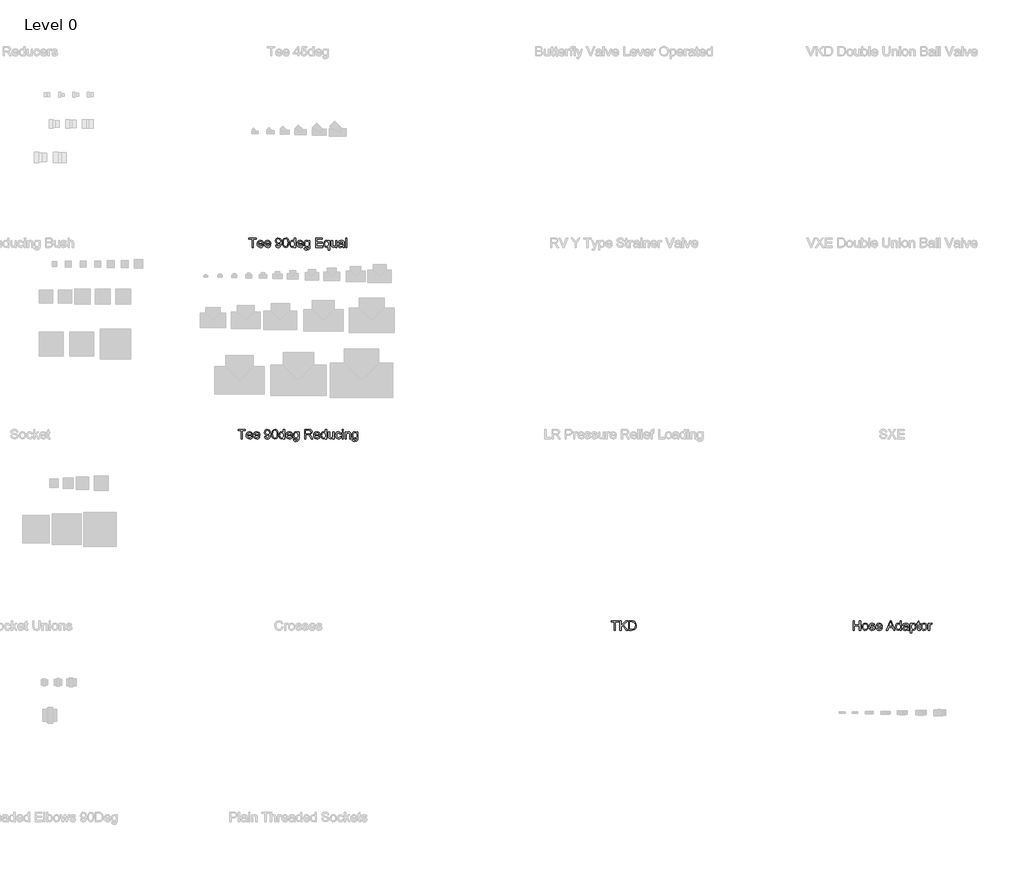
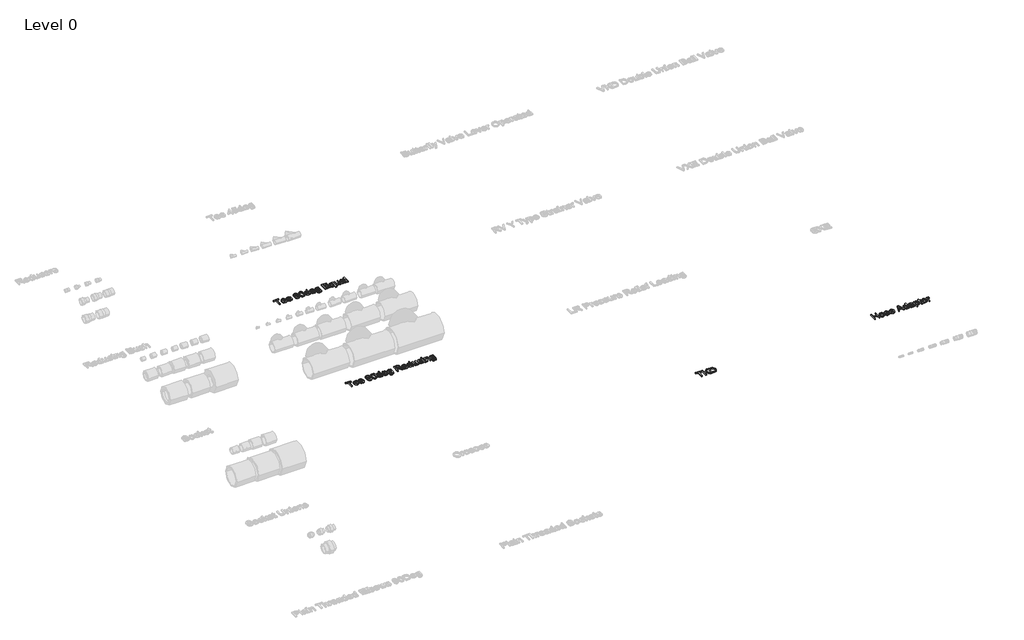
# One storey, part 8 of 12: 4 proxies.
"""IFC4 building model written with IfcOpenShell, lengths in millimetres."""

from ifc_helpers import new_model, si_unit, origin, origin_with_axes, place, context, project, spatial, polyline, outline, extrude, element, save

model = new_model("IFC4")

# Units and contexts
model_context = context("Model", 3, world=origin())
ifc_project = project(units=[si_unit("LENGTHUNIT", "METRE", prefix="MILLI")], contexts=[model_context])

# Site, building, storey
site = spatial("IfcSite", under=ifc_project)
building = spatial("IfcBuilding", under=site)
storey = spatial("IfcBuildingStorey", under=building, Name="Level 0", Elevation=0.0)

# Proxies
placement = place(None, origin())
element("IfcBuildingElementProxy", 1, Name="150mm Arial", ObjectType="150mm Arial", at=placement, inside=storey, context=model_context, shape_type="SweptSolid", body=[
    extrude(outline(polyline([(-11119.5054073, 6945.7253457), (-11119.5054073, 7031.8791919), (-11151.8130996, 7031.8791919), (-11151.8130996, 7044.1868842), (-11074.8900227, 7044.1868842), (-11074.8900227, 7031.8791919), (-11107.197715, 7031.8791919), (-11107.197715, 6945.7253457), (-11119.5054073, 6945.7253457)])), origin_with_axes(), (0.0, 0.0, 1.0), 15.0),
    extrude(outline(polyline([(-11011.9573304, 6967.2638073), (-10999.8900227, 6965.7253457), (-11004.2379794, 6956.6327977), (-11011.1760804, 6949.8359227), (-11020.5480756, 6945.5991438), (-11032.197715, 6944.1868842), (-11046.6388208, 6946.6237832), (-11057.7505996, 6953.9344804), (-11064.8359362, 6965.6442159), (-11067.197715, 6981.2782304), (-11064.8118977, 6997.4380861), (-11057.6544458, 7009.5234227), (-11046.6929073, 7017.0594804), (-11032.8948304, 7019.5714996), (-11019.526441, 7017.06549), (-11008.8443496, 7009.5474611), (-11001.8401429, 6997.486163), (-10999.5054073, 6981.3503457), (-10999.5775227, 6978.033038), (-11054.8900227, 6978.033038), (-11052.7596141, 6968.8202977), (-11047.8106958, 6962.0474611), (-11031.9573304, 6956.4945765), (-11019.8900227, 6959.0666919), (-11011.9573304, 6967.2638073)]), holes=[polyline([(-11054.8900227, 6990.3407304), (-11011.8130996, 6990.3407304), (-11016.7409843, 7001.4945765), (-11023.916465, 7005.8214996), (-11032.9429073, 7007.2638073), (-11048.0991573, 7002.6604419), (-11054.8900227, 6990.3407304)])]), origin_with_axes(), (0.0, 0.0, 1.0), 15.0),
    extrude(outline(polyline([(-10936.572715, 6967.2638073), (-10924.5054073, 6965.7253457), (-10928.8533641, 6956.6327977), (-10935.791465, 6949.8359227), (-10945.1634602, 6945.5991438), (-10956.8130996, 6944.1868842), (-10971.2542054, 6946.6237832), (-10982.3659843, 6953.9344804), (-10989.4513208, 6965.6442159), (-10991.8130996, 6981.2782304), (-10989.4272823, 6997.4380861), (-10982.2698304, 7009.5234227), (-10971.3082919, 7017.0594804), (-10957.510215, 7019.5714996), (-10944.1418256, 7017.06549), (-10933.4597343, 7009.5474611), (-10926.4555275, 6997.486163), (-10924.1207919, 6981.3503457), (-10924.1929073, 6978.033038), (-10979.5054073, 6978.033038), (-10977.3749987, 6968.8202977), (-10972.4260804, 6962.0474611), (-10956.572715, 6956.4945765), (-10944.5054073, 6959.0666919), (-10936.572715, 6967.2638073)]), holes=[polyline([(-10979.5054073, 6990.3407304), (-10936.4284843, 6990.3407304), (-10941.3563689, 7001.4945765), (-10948.5318496, 7005.8214996), (-10957.5582919, 7007.2638073), (-10972.7145419, 7002.6604419), (-10979.5054073, 6990.3407304)])]), origin_with_axes(), (0.0, 0.0, 1.0), 15.0),
    extrude(outline(polyline([(-10874.8900227, 6970.3407304), (-10862.5823304, 6971.8791919), (-10857.0534843, 6960.1364034), (-10846.572715, 6956.4945765), (-10836.6087727, 6958.8383265), (-10829.853965, 6965.1003457), (-10825.8275227, 6975.7974611), (-10824.0486766, 6990.0763073), (-10824.1207919, 6992.4801534), (-10833.9645419, 6983.1532304), (-10847.4621381, 6979.5714996), (-10858.6850948, 6981.7589996), (-10868.0270419, 6988.3214996), (-10874.3281237, 6998.4597207), (-10876.4284843, 7011.3743842), (-10874.2259602, 7024.7157304), (-10867.6183881, 7035.1724611), (-10857.6935083, 7041.9332784), (-10845.5390612, 7044.1868842), (-10828.0030035, 7039.0426534), (-10815.9356958, 7024.3791919), (-10811.8130996, 6996.831115), (-10815.9236766, 6966.939288), (-10828.1472343, 6950.0041919), (-10836.9543256, 6945.6412111), (-10847.1496381, 6944.1868842), (-10857.6724746, 6945.9026294), (-10866.0679073, 6951.049865), (-10871.9393016, 6959.3040717), (-10874.8900227, 6970.3407304)]), holes=[polyline([(-10824.1207919, 7011.6628457), (-10829.4332919, 7026.4224611), (-10843.5438689, 7031.8791919), (-10851.7650227, 7030.4098409), (-10858.3515612, 7026.001788), (-10862.6784843, 7019.2559948), (-10864.1207919, 7010.7734227), (-10858.6640612, 6997.1315957), (-10843.8804073, 6991.8791919), (-10829.6856958, 6997.1315957), (-10825.5120179, 7003.3906102), (-10824.1207919, 7011.6628457)])]), origin_with_axes(), (0.0, 0.0, 1.0), 15.0),
    extrude(outline(polyline([(-10801.0438689, 6994.1628457), (-10797.4260804, 7022.4921727), (-10786.6808881, 7038.8263073), (-10768.7361766, 7044.1868842), (-10754.3611766, 7041.0138073), (-10744.4332919, 7031.8671727), (-10738.6640612, 7017.299865), (-10736.4284843, 6994.1628457), (-10740.010215, 6965.9537111), (-10750.7193496, 6949.5835188), (-10768.7361766, 6944.1868842), (-10781.5246381, 6946.5306342), (-10791.2361766, 6953.5618842), (-10798.5919458, 6970.2145284), (-10801.0438689, 6994.1628457)]), holes=[polyline([(-10788.7361766, 6994.1868842), (-10787.2938689, 6974.8269082), (-10782.9669458, 6963.6219804), (-10776.5246381, 6958.2764275), (-10768.7361766, 6956.4945765), (-10760.947715, 6958.2824371), (-10754.5054073, 6963.6460188), (-10750.1784843, 6974.8569563), (-10748.7361766, 6994.1868842), (-10750.1304073, 7013.111163), (-10754.3130996, 7024.4032304), (-10760.7433881, 7030.0102015), (-10768.8804073, 7031.8791919), (-10776.5847343, 7030.2325573), (-10782.7746381, 7025.2926534), (-10787.2457919, 7013.2974611), (-10788.7361766, 6994.1868842)])]), origin_with_axes(), (0.0, 0.0, 1.0), 15.0),
    extrude(outline(polyline([(-10677.9669458, 6945.7253457), (-10677.9669458, 6957.3359227), (-10686.1099746, 6947.4741438), (-10697.3659843, 6944.1868842), (-10712.6063689, 6948.9464996), (-10723.3755996, 6962.2277496), (-10727.197715, 6981.8070765), (-10723.6760804, 7001.3984227), (-10713.1231958, 7014.8839996), (-10697.4140612, 7019.5714996), (-10686.0679073, 7016.2181342), (-10677.9669458, 7007.5041919), (-10677.9669458, 7044.1868842), (-10665.6592535, 7044.1868842), (-10665.6592535, 6945.7253457), (-10677.9669458, 6945.7253457)]), holes=[polyline([(-10714.8900227, 6981.8551534), (-10713.5018016, 6970.7223409), (-10709.3371381, 6962.8046727), (-10703.2854554, 6958.0721005), (-10696.2361766, 6956.4945765), (-10689.1899025, 6957.9999852), (-10683.291465, 6962.5162111), (-10679.2980756, 6970.127389), (-10677.9669458, 6980.9176534), (-10679.3221141, 6992.7145284), (-10683.3876189, 7000.893615), (-10689.4362968, 7005.6712592), (-10696.7409843, 7007.2638073), (-10703.8623785, 7005.7343602), (-10709.697715, 7001.1460188), (-10713.5919458, 6993.2644082), (-10714.8900227, 6981.8551534)])]), origin_with_axes(), (0.0, 0.0, 1.0), 15.0),
    extrude(outline(polyline([(-10596.572715, 6967.2638073), (-10584.5054073, 6965.7253457), (-10588.8533641, 6956.6327977), (-10595.791465, 6949.8359227), (-10605.1634602, 6945.5991438), (-10616.8130996, 6944.1868842), (-10631.2542054, 6946.6237832), (-10642.3659843, 6953.9344804), (-10649.4513208, 6965.6442159), (-10651.8130996, 6981.2782304), (-10649.4272823, 6997.4380861), (-10642.2698304, 7009.5234227), (-10631.3082919, 7017.0594804), (-10617.510215, 7019.5714996), (-10604.1418256, 7017.06549), (-10593.4597343, 7009.5474611), (-10586.4555275, 6997.486163), (-10584.1207919, 6981.3503457), (-10584.1929073, 6978.033038), (-10639.5054073, 6978.033038), (-10637.3749987, 6968.8202977), (-10632.4260804, 6962.0474611), (-10616.572715, 6956.4945765), (-10604.5054073, 6959.0666919), (-10596.572715, 6967.2638073)]), holes=[polyline([(-10639.5054073, 6990.3407304), (-10596.4284843, 6990.3407304), (-10601.3563689, 7001.4945765), (-10608.5318496, 7005.8214996), (-10617.5582919, 7007.2638073), (-10632.7145419, 7002.6604419), (-10639.5054073, 6990.3407304)])]), origin_with_axes(), (0.0, 0.0, 1.0), 15.0),
    extrude(outline(polyline([(-10574.8900227, 6939.5714996), (-10562.5823304, 6938.033038), (-10558.5919458, 6931.5426534), (-10546.6448304, 6928.8022688), (-10534.0486766, 6931.9032304), (-10528.0390612, 6940.6051534), (-10527.197715, 6954.956115), (-10535.8635804, 6948.033038), (-10546.4284843, 6945.7253457), (-10559.1177871, 6948.4116438), (-10568.5799266, 6956.470538), (-10574.4663448, 6968.2854419), (-10576.4284843, 6982.2397688), (-10572.9068496, 7001.314288), (-10562.7145419, 7014.8118842), (-10547.0294458, 7019.5714996), (-10536.0498785, 7016.8791919), (-10527.197715, 7008.8022688), (-10527.197715, 7018.033038), (-10514.8900227, 7018.033038), (-10514.8900227, 6955.6051534), (-10518.2554073, 6931.6989034), (-10528.916465, 6920.581115), (-10546.885215, 6916.4945765), (-10558.3365371, 6917.9338794), (-10567.353965, 6922.251788), (-10573.1382198, 6929.4603217), (-10574.8900227, 6939.5714996)]), holes=[polyline([(-10564.1207919, 6983.081115), (-10562.807691, 6971.7920525), (-10558.8683881, 6964.0306342), (-10552.9459121, 6959.5324371), (-10545.6832919, 6958.033038), (-10538.4747583, 6959.5234227), (-10532.5222343, 6963.9945765), (-10528.5288448, 6971.6568361), (-10527.197715, 6982.720538), (-10528.5679073, 6993.3906102), (-10532.6784843, 7001.0739034), (-10538.7181477, 7005.7163313), (-10545.8755996, 7007.2638073), (-10552.9038448, 7005.7403698), (-10558.7962727, 7001.1700573), (-10562.7896621, 6993.6009467), (-10564.1207919, 6983.081115)])]), origin_with_axes(), (0.0, 0.0, 1.0), 15.0),
    extrude(outline(polyline([(-10456.4284843, 6945.7253457), (-10456.4284843, 7044.1868842), (-10385.6592535, 7044.1868842), (-10385.6592535, 7031.8791919), (-10444.1207919, 7031.8791919), (-10444.1207919, 7002.6484227), (-10388.7361766, 7002.6484227), (-10388.7361766, 6990.3407304), (-10444.1207919, 6990.3407304), (-10444.1207919, 6958.033038), (-10384.1207919, 6958.033038), (-10384.1207919, 6945.7253457), (-10456.4284843, 6945.7253457)])), origin_with_axes(), (0.0, 0.0, 1.0), 15.0),
    extrude(outline(polyline([(-10322.5823304, 6918.033038), (-10322.5823304, 6955.581115), (-10330.3948304, 6947.4320765), (-10341.0679073, 6944.1868842), (-10352.7686285, 6946.7499852), (-10362.7265612, 6954.439288), (-10369.541465, 6966.5937352), (-10371.8130996, 6982.5522688), (-10368.2073304, 7002.0474611), (-10357.7505996, 7015.1243842), (-10342.7265612, 7019.5714996), (-10331.2842535, 7016.1219804), (-10322.5823304, 7005.7734227), (-10322.5823304, 7018.033038), (-10310.2746381, 7018.033038), (-10310.2746381, 6918.033038), (-10322.5823304, 6918.033038)]), holes=[polyline([(-10359.5054073, 6981.8791919), (-10358.120191, 6970.7734227), (-10353.9645419, 6962.8407304), (-10347.8737968, 6958.081115), (-10340.6832919, 6956.4945765), (-10327.9308881, 6962.5282304), (-10323.9194698, 6970.1364034), (-10322.5823304, 6980.893615), (-10323.9915852, 6992.393014), (-10328.2193496, 7000.6412111), (-10334.3461525, 7005.6081582), (-10341.4525227, 7007.2638073), (-10348.4266814, 7005.7223409), (-10354.2530035, 7001.0979419), (-10358.1923064, 6993.2103217), (-10359.5054073, 6981.8791919)])]), origin_with_axes(), (0.0, 0.0, 1.0), 15.0),
    extrude(outline(polyline([(-10245.6592535, 6945.7253457), (-10245.6592535, 6958.1532304), (-10255.2986766, 6947.6784707), (-10267.8707919, 6944.1868842), (-10279.4453112, 6946.6388073), (-10287.4260804, 6952.7926534), (-10291.0919458, 6961.8551534), (-10291.8130996, 6973.2974611), (-10291.8130996, 7018.033038), (-10279.5054073, 7018.033038), (-10279.5054073, 6979.0907304), (-10278.760215, 6966.5426534), (-10273.8924266, 6959.174865), (-10264.7217535, 6956.4945765), (-10254.4453112, 6959.2349611), (-10247.6544458, 6966.6989034), (-10245.6592535, 6980.4128457), (-10245.6592535, 7018.033038), (-10233.3515612, 7018.033038), (-10233.3515612, 6945.7253457), (-10245.6592535, 6945.7253457)])), origin_with_axes(), (0.0, 0.0, 1.0), 15.0),
    extrude(outline(polyline([(-10170.2746381, 6954.956115), (-10182.2097343, 6946.6147688), (-10195.3948304, 6944.1868842), (-10205.6802871, 6945.6472207), (-10213.2674266, 6950.0282304), (-10217.9459121, 6956.6808746), (-10219.5054073, 6964.956115), (-10217.1496381, 6974.6916919), (-10210.9597343, 6981.7589996), (-10202.3419458, 6985.7974611), (-10191.6929073, 6987.6484227), (-10170.3467535, 6991.8791919), (-10170.2746381, 6994.6195765), (-10173.6640612, 7003.706115), (-10187.2698304, 7007.2638073), (-10199.7217535, 7004.8960188), (-10205.6592535, 6996.4945765), (-10217.9669458, 6998.033038), (-10212.6424266, 7010.0522688), (-10201.9212727, 7017.095538), (-10185.6832919, 7019.5714996), (-10170.7674266, 7017.3839996), (-10162.3419458, 7011.8912111), (-10158.5679073, 7003.5378457), (-10157.9669458, 6992.768615), (-10157.9669458, 6977.456115), (-10157.3419458, 6956.0739034), (-10154.8900227, 6945.7253457), (-10167.197715, 6945.7253457), (-10170.2746381, 6954.956115)]), holes=[polyline([(-10170.2746381, 6979.5714996), (-10190.1304073, 6975.7974611), (-10200.7193496, 6973.8022688), (-10205.5150227, 6970.5570765), (-10207.197715, 6965.8214996), (-10203.5318496, 6959.1628457), (-10192.7746381, 6956.4945765), (-10180.322715, 6959.439288), (-10172.2938689, 6966.5666919), (-10170.3467535, 6976.0859227), (-10170.2746381, 6979.5714996)])]), origin_with_axes(), (0.0, 0.0, 1.0), 15.0),
    extrude(outline(polyline([(-10141.0438689, 6945.7253457), (-10141.0438689, 7044.1868842), (-10128.7361766, 7044.1868842), (-10128.7361766, 6945.7253457), (-10141.0438689, 6945.7253457)])), origin_with_axes(), (0.0, 0.0, 1.0), 15.0),
])
element("IfcBuildingElementProxy", 2, Name="150mm Arial", ObjectType="150mm Arial", at=placement, inside=storey, context=model_context, shape_type="SweptSolid", body=[
    extrude(outline(polyline([(-11233.3515612, 4945.7253457), (-11233.3515612, 5031.8791919), (-11265.6592535, 5031.8791919), (-11265.6592535, 5044.1868842), (-11188.7361766, 5044.1868842), (-11188.7361766, 5031.8791919), (-11221.0438689, 5031.8791919), (-11221.0438689, 4945.7253457), (-11233.3515612, 4945.7253457)])), origin_with_axes(), (0.0, 0.0, 1.0), 15.0),
    extrude(outline(polyline([(-11125.8034843, 4967.2638073), (-11113.7361766, 4965.7253457), (-11118.0841333, 4956.6327977), (-11125.0222343, 4949.8359227), (-11134.3942294, 4945.5991438), (-11146.0438689, 4944.1868842), (-11160.4849746, 4946.6237832), (-11171.5967535, 4953.9344804), (-11178.68209, 4965.6442159), (-11181.0438689, 4981.2782304), (-11178.6580516, 4997.4380861), (-11171.5005996, 5009.5234227), (-11160.5390612, 5017.0594804), (-11146.7409843, 5019.5714996), (-11133.3725948, 5017.06549), (-11122.6905035, 5009.5474611), (-11115.6862968, 4997.486163), (-11113.3515612, 4981.3503457), (-11113.4236766, 4978.033038), (-11168.7361766, 4978.033038), (-11166.6057679, 4968.8202977), (-11161.6568496, 4962.0474611), (-11145.8034843, 4956.4945765), (-11133.7361766, 4959.0666919), (-11125.8034843, 4967.2638073)]), holes=[polyline([(-11168.7361766, 4990.3407304), (-11125.6592535, 4990.3407304), (-11130.5871381, 5001.4945765), (-11137.7626189, 5005.8214996), (-11146.7890612, 5007.2638073), (-11161.9453112, 5002.6604419), (-11168.7361766, 4990.3407304)])]), origin_with_axes(), (0.0, 0.0, 1.0), 15.0),
    extrude(outline(polyline([(-11050.4188689, 4967.2638073), (-11038.3515612, 4965.7253457), (-11042.6995179, 4956.6327977), (-11049.6376189, 4949.8359227), (-11059.0096141, 4945.5991438), (-11070.6592535, 4944.1868842), (-11085.1003593, 4946.6237832), (-11096.2121381, 4953.9344804), (-11103.2974746, 4965.6442159), (-11105.6592535, 4981.2782304), (-11103.2734362, 4997.4380861), (-11096.1159843, 5009.5234227), (-11085.1544458, 5017.0594804), (-11071.3563689, 5019.5714996), (-11057.9879794, 5017.06549), (-11047.3058881, 5009.5474611), (-11040.3016814, 4997.486163), (-11037.9669458, 4981.3503457), (-11038.0390612, 4978.033038), (-11093.3515612, 4978.033038), (-11091.2211525, 4968.8202977), (-11086.2722343, 4962.0474611), (-11070.4188689, 4956.4945765), (-11058.3515612, 4959.0666919), (-11050.4188689, 4967.2638073)]), holes=[polyline([(-11093.3515612, 4990.3407304), (-11050.2746381, 4990.3407304), (-11055.2025227, 5001.4945765), (-11062.3780035, 5005.8214996), (-11071.4044458, 5007.2638073), (-11086.5606958, 5002.6604419), (-11093.3515612, 4990.3407304)])]), origin_with_axes(), (0.0, 0.0, 1.0), 15.0),
    extrude(outline(polyline([(-10988.7361766, 4970.3407304), (-10976.4284843, 4971.8791919), (-10970.8996381, 4960.1364034), (-10960.4188689, 4956.4945765), (-10950.4549266, 4958.8383265), (-10943.7001189, 4965.1003457), (-10939.6736766, 4975.7974611), (-10937.8948304, 4990.0763073), (-10937.9669458, 4992.4801534), (-10947.8106958, 4983.1532304), (-10961.3082919, 4979.5714996), (-10972.5312487, 4981.7589996), (-10981.8731958, 4988.3214996), (-10988.1742775, 4998.4597207), (-10990.2746381, 5011.3743842), (-10988.0721141, 5024.7157304), (-10981.4645419, 5035.1724611), (-10971.5396621, 5041.9332784), (-10959.385215, 5044.1868842), (-10941.8491573, 5039.0426534), (-10929.7818496, 5024.3791919), (-10925.6592535, 4996.831115), (-10929.7698304, 4966.939288), (-10941.9933881, 4950.0041919), (-10950.8004794, 4945.6412111), (-10960.9957919, 4944.1868842), (-10971.5186285, 4945.9026294), (-10979.9140612, 4951.049865), (-10985.7854554, 4959.3040717), (-10988.7361766, 4970.3407304)]), holes=[polyline([(-10937.9669458, 5011.6628457), (-10943.2794458, 5026.4224611), (-10957.3900227, 5031.8791919), (-10965.6111766, 5030.4098409), (-10972.197715, 5026.001788), (-10976.5246381, 5019.2559948), (-10977.9669458, 5010.7734227), (-10972.510215, 4997.1315957), (-10957.7265612, 4991.8791919), (-10943.5318496, 4997.1315957), (-10939.3581718, 5003.3906102), (-10937.9669458, 5011.6628457)])]), origin_with_axes(), (0.0, 0.0, 1.0), 15.0),
    extrude(outline(polyline([(-10914.8900227, 4994.1628457), (-10911.2722343, 5022.4921727), (-10900.5270419, 5038.8263073), (-10882.5823304, 5044.1868842), (-10868.2073304, 5041.0138073), (-10858.2794458, 5031.8671727), (-10852.510215, 5017.299865), (-10850.2746381, 4994.1628457), (-10853.8563689, 4965.9537111), (-10864.5655035, 4949.5835188), (-10882.5823304, 4944.1868842), (-10895.3707919, 4946.5306342), (-10905.0823304, 4953.5618842), (-10912.4380996, 4970.2145284), (-10914.8900227, 4994.1628457)]), holes=[polyline([(-10902.5823304, 4994.1868842), (-10901.1400227, 4974.8269082), (-10896.8130996, 4963.6219804), (-10890.3707919, 4958.2764275), (-10882.5823304, 4956.4945765), (-10874.7938689, 4958.2824371), (-10868.3515612, 4963.6460188), (-10864.0246381, 4974.8569563), (-10862.5823304, 4994.1868842), (-10863.9765612, 5013.111163), (-10868.1592535, 5024.4032304), (-10874.5895419, 5030.0102015), (-10882.7265612, 5031.8791919), (-10890.4308881, 5030.2325573), (-10896.6207919, 5025.2926534), (-10901.0919458, 5013.2974611), (-10902.5823304, 4994.1868842)])]), origin_with_axes(), (0.0, 0.0, 1.0), 15.0),
    extrude(outline(polyline([(-10791.8130996, 4945.7253457), (-10791.8130996, 4957.3359227), (-10799.9561285, 4947.4741438), (-10811.2121381, 4944.1868842), (-10826.4525227, 4948.9464996), (-10837.2217535, 4962.2277496), (-10841.0438689, 4981.8070765), (-10837.5222343, 5001.3984227), (-10826.9693496, 5014.8839996), (-10811.260215, 5019.5714996), (-10799.9140612, 5016.2181342), (-10791.8130996, 5007.5041919), (-10791.8130996, 5044.1868842), (-10779.5054073, 5044.1868842), (-10779.5054073, 4945.7253457), (-10791.8130996, 4945.7253457)]), holes=[polyline([(-10828.7361766, 4981.8551534), (-10827.3479554, 4970.7223409), (-10823.1832919, 4962.8046727), (-10817.1316093, 4958.0721005), (-10810.0823304, 4956.4945765), (-10803.0360564, 4957.9999852), (-10797.1376189, 4962.5162111), (-10793.1442294, 4970.127389), (-10791.8130996, 4980.9176534), (-10793.1682679, 4992.7145284), (-10797.2337727, 5000.893615), (-10803.2824506, 5005.6712592), (-10810.5871381, 5007.2638073), (-10817.7085323, 5005.7343602), (-10823.5438689, 5001.1460188), (-10827.4380996, 4993.2644082), (-10828.7361766, 4981.8551534)])]), origin_with_axes(), (0.0, 0.0, 1.0), 15.0),
    extrude(outline(polyline([(-10710.4188689, 4967.2638073), (-10698.3515612, 4965.7253457), (-10702.6995179, 4956.6327977), (-10709.6376189, 4949.8359227), (-10719.0096141, 4945.5991438), (-10730.6592535, 4944.1868842), (-10745.1003593, 4946.6237832), (-10756.2121381, 4953.9344804), (-10763.2974746, 4965.6442159), (-10765.6592535, 4981.2782304), (-10763.2734362, 4997.4380861), (-10756.1159843, 5009.5234227), (-10745.1544458, 5017.0594804), (-10731.3563689, 5019.5714996), (-10717.9879794, 5017.06549), (-10707.3058881, 5009.5474611), (-10700.3016814, 4997.486163), (-10697.9669458, 4981.3503457), (-10698.0390612, 4978.033038), (-10753.3515612, 4978.033038), (-10751.2211525, 4968.8202977), (-10746.2722343, 4962.0474611), (-10730.4188689, 4956.4945765), (-10718.3515612, 4959.0666919), (-10710.4188689, 4967.2638073)]), holes=[polyline([(-10753.3515612, 4990.3407304), (-10710.2746381, 4990.3407304), (-10715.2025227, 5001.4945765), (-10722.3780035, 5005.8214996), (-10731.4044458, 5007.2638073), (-10746.5606958, 5002.6604419), (-10753.3515612, 4990.3407304)])]), origin_with_axes(), (0.0, 0.0, 1.0), 15.0),
    extrude(outline(polyline([(-10688.7361766, 4939.5714996), (-10676.4284843, 4938.033038), (-10672.4380996, 4931.5426534), (-10660.4909843, 4928.8022688), (-10647.8948304, 4931.9032304), (-10641.885215, 4940.6051534), (-10641.0438689, 4954.956115), (-10649.7097343, 4948.033038), (-10660.2746381, 4945.7253457), (-10672.963941, 4948.4116438), (-10682.4260804, 4956.470538), (-10688.3124987, 4968.2854419), (-10690.2746381, 4982.2397688), (-10686.7530035, 5001.314288), (-10676.5606958, 5014.8118842), (-10660.8755996, 5019.5714996), (-10649.8960323, 5016.8791919), (-10641.0438689, 5008.8022688), (-10641.0438689, 5018.033038), (-10628.7361766, 5018.033038), (-10628.7361766, 4955.6051534), (-10632.1015612, 4931.6989034), (-10642.7626189, 4920.581115), (-10660.7313689, 4916.4945765), (-10672.182691, 4917.9338794), (-10681.2001189, 4922.251788), (-10686.9843737, 4929.4603217), (-10688.7361766, 4939.5714996)]), holes=[polyline([(-10677.9669458, 4983.081115), (-10676.6538448, 4971.7920525), (-10672.7145419, 4964.0306342), (-10666.792066, 4959.5324371), (-10659.5294458, 4958.033038), (-10652.3209121, 4959.5234227), (-10646.3683881, 4963.9945765), (-10642.3749987, 4971.6568361), (-10641.0438689, 4982.720538), (-10642.4140612, 4993.3906102), (-10646.5246381, 5001.0739034), (-10652.5643016, 5005.7163313), (-10659.7217535, 5007.2638073), (-10666.7499987, 5005.7403698), (-10672.6424266, 5001.1700573), (-10676.635816, 4993.6009467), (-10677.9669458, 4983.081115)])]), origin_with_axes(), (0.0, 0.0, 1.0), 15.0),
    extrude(outline(polyline([(-10570.2746381, 4945.7253457), (-10570.2746381, 5044.1868842), (-10527.8467535, 5044.1868842), (-10508.1472343, 5041.5306342), (-10497.3780035, 5032.1315957), (-10493.3515612, 5017.2397688), (-10495.0192294, 5007.5402496), (-10500.0222343, 4999.4993842), (-10508.510816, 4993.6039515), (-10520.635215, 4990.3407304), (-10513.6400227, 4985.0763073), (-10503.6640612, 4972.408038), (-10487.2457919, 4945.7253457), (-10501.5486766, 4945.7253457), (-10514.3611766, 4966.1339996), (-10523.6159843, 4979.643615), (-10530.1183881, 4986.0258265), (-10535.9717535, 4988.3695765), (-10543.1111766, 4988.8022688), (-10557.9669458, 4988.8022688), (-10557.9669458, 4945.7253457), (-10570.2746381, 4945.7253457)]), holes=[polyline([(-10557.9669458, 5001.1099611), (-10530.4188689, 5001.1099611), (-10516.3683881, 5002.8527496), (-10508.3876189, 5008.4296727), (-10505.6592535, 5016.783038), (-10510.8635804, 5027.6243842), (-10527.3179073, 5031.8791919), (-10557.9669458, 5031.8791919), (-10557.9669458, 5001.1099611)])]), origin_with_axes(), (0.0, 0.0, 1.0), 15.0),
    extrude(outline(polyline([(-10422.7265612, 4967.2638073), (-10410.6592535, 4965.7253457), (-10415.0072102, 4956.6327977), (-10421.9453112, 4949.8359227), (-10431.3173064, 4945.5991438), (-10442.9669458, 4944.1868842), (-10457.4080516, 4946.6237832), (-10468.5198304, 4953.9344804), (-10475.6051669, 4965.6442159), (-10477.9669458, 4981.2782304), (-10475.5811285, 4997.4380861), (-10468.4236766, 5009.5234227), (-10457.4621381, 5017.0594804), (-10443.6640612, 5019.5714996), (-10430.2956718, 5017.06549), (-10419.6135804, 5009.5474611), (-10412.6093737, 4997.486163), (-10410.2746381, 4981.3503457), (-10410.3467535, 4978.033038), (-10465.6592535, 4978.033038), (-10463.5288448, 4968.8202977), (-10458.5799266, 4962.0474611), (-10442.7265612, 4956.4945765), (-10430.6592535, 4959.0666919), (-10422.7265612, 4967.2638073)]), holes=[polyline([(-10465.6592535, 4990.3407304), (-10422.5823304, 4990.3407304), (-10427.510215, 5001.4945765), (-10434.6856958, 5005.8214996), (-10443.7121381, 5007.2638073), (-10458.8683881, 5002.6604419), (-10465.6592535, 4990.3407304)])]), origin_with_axes(), (0.0, 0.0, 1.0), 15.0),
    extrude(outline(polyline([(-10353.3515612, 4945.7253457), (-10353.3515612, 4957.3359227), (-10361.49459, 4947.4741438), (-10372.7505996, 4944.1868842), (-10387.9909843, 4948.9464996), (-10398.760215, 4962.2277496), (-10402.5823304, 4981.8070765), (-10399.0606958, 5001.3984227), (-10388.5078112, 5014.8839996), (-10372.7986766, 5019.5714996), (-10361.4525227, 5016.2181342), (-10353.3515612, 5007.5041919), (-10353.3515612, 5044.1868842), (-10341.0438689, 5044.1868842), (-10341.0438689, 4945.7253457), (-10353.3515612, 4945.7253457)]), holes=[polyline([(-10390.2746381, 4981.8551534), (-10388.8864169, 4970.7223409), (-10384.7217535, 4962.8046727), (-10378.6700708, 4958.0721005), (-10371.6207919, 4956.4945765), (-10364.5745179, 4957.9999852), (-10358.6760804, 4962.5162111), (-10354.682691, 4970.127389), (-10353.3515612, 4980.9176534), (-10354.7067294, 4992.7145284), (-10358.7722343, 5000.893615), (-10364.8209121, 5005.6712592), (-10372.1255996, 5007.2638073), (-10379.2469939, 5005.7343602), (-10385.0823304, 5001.1460188), (-10388.9765612, 4993.2644082), (-10390.2746381, 4981.8551534)])]), origin_with_axes(), (0.0, 0.0, 1.0), 15.0),
    extrude(outline(polyline([(-10276.4284843, 4945.7253457), (-10276.4284843, 4958.1532304), (-10286.0679073, 4947.6784707), (-10298.6400227, 4944.1868842), (-10310.2145419, 4946.6388073), (-10318.1953112, 4952.7926534), (-10321.8611766, 4961.8551534), (-10322.5823304, 4973.2974611), (-10322.5823304, 5018.033038), (-10310.2746381, 5018.033038), (-10310.2746381, 4979.0907304), (-10309.5294458, 4966.5426534), (-10304.6616573, 4959.174865), (-10295.4909843, 4956.4945765), (-10285.2145419, 4959.2349611), (-10278.4236766, 4966.6989034), (-10276.4284843, 4980.4128457), (-10276.4284843, 5018.033038), (-10264.1207919, 5018.033038), (-10264.1207919, 4945.7253457), (-10276.4284843, 4945.7253457)])), origin_with_axes(), (0.0, 0.0, 1.0), 15.0),
    extrude(outline(polyline([(-10201.0438689, 4971.8791919), (-10188.7361766, 4970.3407304), (-10192.1676669, 4959.3942159), (-10198.6159843, 4951.1219804), (-10207.4741573, 4945.9206582), (-10218.135215, 4944.1868842), (-10231.2271621, 4946.6057544), (-10241.4645419, 4953.862365), (-10248.0721141, 4965.6382063), (-10250.2746381, 4981.6147688), (-10246.5126189, 5002.0594804), (-10235.0462727, 5015.1964996), (-10218.3034843, 5019.5714996), (-10207.9038448, 5018.0690957), (-10199.5895419, 5013.5618842), (-10193.6249987, 5006.2902496), (-10190.2746381, 4996.4945765), (-10202.5823304, 4994.956115), (-10208.291465, 5004.174865), (-10218.2073304, 5007.2638073), (-10226.1610564, 5005.7433746), (-10232.4741573, 5001.1820765), (-10236.5937487, 4993.3335188), (-10237.9669458, 4981.9513073), (-10236.6237968, 4970.4158505), (-10232.5943496, 4962.5402496), (-10226.3954314, 4958.0059948), (-10218.5438689, 4956.4945765), (-10206.9453112, 4960.268615), (-10201.0438689, 4971.8791919)])), origin_with_axes(), (0.0, 0.0, 1.0), 15.0),
    extrude(outline(polyline([(-10177.9669458, 4945.7253457), (-10177.9669458, 5018.033038), (-10165.6592535, 5018.033038), (-10165.6592535, 4945.7253457), (-10177.9669458, 4945.7253457)])), origin_with_axes(), (0.0, 0.0, 1.0), 15.0),
    extrude(outline(polyline([(-10177.9669458, 5031.8791919), (-10177.9669458, 5044.1868842), (-10165.6592535, 5044.1868842), (-10165.6592535, 5031.8791919), (-10177.9669458, 5031.8791919)])), origin_with_axes(), (0.0, 0.0, 1.0), 15.0),
    extrude(outline(polyline([(-10147.197715, 4945.7253457), (-10147.197715, 5018.033038), (-10134.8900227, 5018.033038), (-10134.8900227, 5007.9368842), (-10125.478965, 5016.6628457), (-10112.6304073, 5019.5714996), (-10101.0078112, 5017.2277496), (-10093.0751189, 5011.0739034), (-10089.385215, 5002.0234227), (-10088.7361766, 4990.1243842), (-10088.7361766, 4945.7253457), (-10101.0438689, 4945.7253457), (-10101.0438689, 4988.4657304), (-10102.4621381, 4999.3551534), (-10107.4741573, 5005.112365), (-10115.9236766, 5007.2638073), (-10129.2770419, 5002.4320765), (-10133.4867775, 4995.4308746), (-10134.8900227, 4984.0907304), (-10134.8900227, 4945.7253457), (-10147.197715, 4945.7253457)])), origin_with_axes(), (0.0, 0.0, 1.0), 15.0),
    extrude(outline(polyline([(-10074.8900227, 4939.5714996), (-10062.5823304, 4938.033038), (-10058.5919458, 4931.5426534), (-10046.6448304, 4928.8022688), (-10034.0486766, 4931.9032304), (-10028.0390612, 4940.6051534), (-10027.197715, 4954.956115), (-10035.8635804, 4948.033038), (-10046.4284843, 4945.7253457), (-10059.1177871, 4948.4116438), (-10068.5799266, 4956.470538), (-10074.4663448, 4968.2854419), (-10076.4284843, 4982.2397688), (-10072.9068496, 5001.314288), (-10062.7145419, 5014.8118842), (-10047.0294458, 5019.5714996), (-10036.0498785, 5016.8791919), (-10027.197715, 5008.8022688), (-10027.197715, 5018.033038), (-10014.8900227, 5018.033038), (-10014.8900227, 4955.6051534), (-10018.2554073, 4931.6989034), (-10028.916465, 4920.581115), (-10046.885215, 4916.4945765), (-10058.3365371, 4917.9338794), (-10067.353965, 4922.251788), (-10073.1382198, 4929.4603217), (-10074.8900227, 4939.5714996)]), holes=[polyline([(-10064.1207919, 4983.081115), (-10062.807691, 4971.7920525), (-10058.8683881, 4964.0306342), (-10052.9459121, 4959.5324371), (-10045.6832919, 4958.033038), (-10038.4747583, 4959.5234227), (-10032.5222343, 4963.9945765), (-10028.5288448, 4971.6568361), (-10027.197715, 4982.720538), (-10028.5679073, 4993.3906102), (-10032.6784843, 5001.0739034), (-10038.7181477, 5005.7163313), (-10045.8755996, 5007.2638073), (-10052.9038448, 5005.7403698), (-10058.7962727, 5001.1700573), (-10062.7896621, 4993.6009467), (-10064.1207919, 4983.081115)])]), origin_with_axes(), (0.0, 0.0, 1.0), 15.0),
])
element("IfcBuildingElementProxy", 3, Name="150mm Arial", ObjectType="150mm Arial", at=placement, inside=storey, context=model_context, shape_type="SweptSolid", body=[
    extrude(outline(polyline([(-7337.9669458, 2945.7253457), (-7337.9669458, 3031.8791919), (-7370.2746381, 3031.8791919), (-7370.2746381, 3044.1868842), (-7293.3515612, 3044.1868842), (-7293.3515612, 3031.8791919), (-7325.6592535, 3031.8791919), (-7325.6592535, 2945.7253457), (-7337.9669458, 2945.7253457)])), origin_with_axes(), (0.0, 0.0, 1.0), 15.0),
    extrude(outline(polyline([(-7279.5054073, 2945.7253457), (-7279.5054073, 3044.1868842), (-7267.197715, 3044.1868842), (-7267.197715, 2995.9897688), (-7216.7169458, 3044.1868842), (-7199.5054073, 3044.1868842), (-7241.885215, 3003.706115), (-7197.9669458, 2945.7253457), (-7213.0150227, 2945.7253457), (-7250.6111766, 2995.3888073), (-7267.197715, 2979.5714996), (-7267.197715, 2945.7253457), (-7279.5054073, 2945.7253457)])), origin_with_axes(), (0.0, 0.0, 1.0), 15.0),
    extrude(outline(polyline([(-7188.7361766, 2945.7253457), (-7188.7361766, 3044.1868842), (-7154.7698304, 3044.1868842), (-7137.197715, 3042.768615), (-7122.7265612, 3035.7253457), (-7111.0679073, 3018.8984227), (-7107.197715, 2995.4849611), (-7109.8179073, 2975.6171727), (-7116.5486766, 2961.2782304), (-7125.5390612, 2952.3479419), (-7137.3058881, 2947.408038), (-7153.135215, 2945.7253457), (-7188.7361766, 2945.7253457)]), holes=[polyline([(-7176.4284843, 2958.033038), (-7154.6496381, 2958.033038), (-7138.8082919, 2959.8118842), (-7129.6736766, 2964.8359227), (-7122.1856958, 2977.0594804), (-7119.5054073, 2995.6772688), (-7120.8185083, 3009.0907304), (-7124.7578112, 3018.9945765), (-7137.5342535, 3029.908038), (-7154.9861766, 3031.8791919), (-7176.4284843, 3031.8791919), (-7176.4284843, 2958.033038)])]), origin_with_axes(), (0.0, 0.0, 1.0), 15.0),
])
element("IfcBuildingElementProxy", 4, Name="150mm Arial", ObjectType="150mm Arial", at=placement, inside=storey, context=model_context, shape_type="SweptSolid", body=[
    extrude(outline(polyline([(-4843.3515612, 2945.7253457), (-4843.3515612, 3044.1868842), (-4831.0438689, 3044.1868842), (-4831.0438689, 3004.1868842), (-4778.7361766, 3004.1868842), (-4778.7361766, 3044.1868842), (-4766.4284843, 3044.1868842), (-4766.4284843, 2945.7253457), (-4778.7361766, 2945.7253457), (-4778.7361766, 2991.8791919), (-4831.0438689, 2991.8791919), (-4831.0438689, 2945.7253457), (-4843.3515612, 2945.7253457)])), origin_with_axes(), (0.0, 0.0, 1.0), 15.0),
    extrude(outline(polyline([(-4749.5054073, 2981.8791919), (-4746.8431477, 2999.3130861), (-4738.8563689, 3011.5666919), (-4728.9885804, 3017.5702977), (-4717.1736766, 3019.5714996), (-4704.2439891, 3017.1346005), (-4693.916465, 3009.8239034), (-4687.1466333, 2998.2163313), (-4684.8900227, 2982.8888073), (-4688.8804073, 2960.9897688), (-4700.5030035, 2948.5979419), (-4717.1736766, 2944.1868842), (-4730.2596141, 2946.6147688), (-4740.5751189, 2953.8984227), (-4747.2728352, 2965.7493842), (-4749.5054073, 2981.8791919)]), holes=[polyline([(-4737.197715, 2981.9032304), (-4735.7734362, 2970.7644082), (-4731.5005996, 2962.8287111), (-4725.0703112, 2958.0781102), (-4717.1736766, 2956.4945765), (-4709.3130996, 2958.0871246), (-4702.8948304, 2962.8647688), (-4698.6219939, 2970.9056342), (-4697.197715, 2982.2878457), (-4698.6310083, 2993.1021486), (-4702.9308881, 3000.9296727), (-4709.3581718, 3005.6802736), (-4717.1736766, 3007.2638073), (-4725.0703112, 3005.6862832), (-4731.5005996, 3000.9537111), (-4735.7734362, 2993.0360429), (-4737.197715, 2981.9032304)])]), origin_with_axes(), (0.0, 0.0, 1.0), 15.0),
    extrude(outline(polyline([(-4675.6592535, 2967.2638073), (-4663.3515612, 2968.8022688), (-4657.6544458, 2959.6676534), (-4644.6015612, 2956.4945765), (-4632.0534843, 2959.4032304), (-4627.9669458, 2966.2301534), (-4632.0775227, 2971.7589996), (-4644.7457919, 2975.268615), (-4663.2794458, 2981.2902496), (-4671.3683881, 2988.3214996), (-4674.1207919, 2998.2493842), (-4671.9092535, 3007.4200573), (-4665.8755996, 3014.4272688), (-4658.0510804, 3018.0690957), (-4647.4621381, 3019.5714996), (-4632.4861766, 3017.1556342), (-4622.9669458, 3010.6171727), (-4618.7361766, 2999.5714996), (-4631.0438689, 2998.033038), (-4635.6712727, 3004.8239034), (-4646.5005996, 3007.2638073), (-4658.2794458, 3004.9320765), (-4661.8130996, 2999.4993842), (-4660.3467535, 2995.9176534), (-4655.7554073, 2993.2013073), (-4645.1544458, 2990.581115), (-4627.0895419, 2984.7878457), (-4618.7001189, 2978.2253457), (-4615.6592535, 2967.5282304), (-4619.228965, 2955.7493842), (-4629.5294458, 2947.2037111), (-4644.7698304, 2944.1868842), (-4657.1796862, 2945.6412111), (-4666.2361766, 2950.0041919), (-4672.2818496, 2957.2277496), (-4675.6592535, 2967.2638073)])), origin_with_axes(), (0.0, 0.0, 1.0), 15.0),
    extrude(outline(polyline([(-4551.1880996, 2967.2638073), (-4539.1207919, 2965.7253457), (-4543.4687487, 2956.6327977), (-4550.4068496, 2949.8359227), (-4559.7788448, 2945.5991438), (-4571.4284843, 2944.1868842), (-4585.86959, 2946.6237832), (-4596.9813689, 2953.9344804), (-4604.0667054, 2965.6442159), (-4606.4284843, 2981.2782304), (-4604.0426669, 2997.4380861), (-4596.885215, 3009.5234227), (-4585.9236766, 3017.0594804), (-4572.1255996, 3019.5714996), (-4558.7572102, 3017.06549), (-4548.0751189, 3009.5474611), (-4541.0709121, 2997.486163), (-4538.7361766, 2981.3503457), (-4538.8082919, 2978.033038), (-4594.1207919, 2978.033038), (-4591.9903833, 2968.8202977), (-4587.041465, 2962.0474611), (-4571.1880996, 2956.4945765), (-4559.1207919, 2959.0666919), (-4551.1880996, 2967.2638073)]), holes=[polyline([(-4594.1207919, 2990.3407304), (-4551.0438689, 2990.3407304), (-4555.9717535, 3001.4945765), (-4563.1472343, 3005.8214996), (-4572.1736766, 3007.2638073), (-4587.3299266, 3002.6604419), (-4594.1207919, 2990.3407304)])]), origin_with_axes(), (0.0, 0.0, 1.0), 15.0),
    extrude(outline(polyline([(-4497.8948304, 2945.7253457), (-4458.5919458, 3044.1868842), (-4448.1111766, 3044.1868842), (-4408.8082919, 2945.7253457), (-4421.8130996, 2945.7253457), (-4433.0871381, 2976.4945765), (-4473.6400227, 2976.4945765), (-4484.8900227, 2945.7253457), (-4497.8948304, 2945.7253457)]), holes=[polyline([(-4469.1207919, 2988.8022688), (-4437.5823304, 2988.8022688), (-4446.4525227, 3013.0089996), (-4453.3515612, 3031.8791919), (-4459.4813689, 3015.1243842), (-4469.1207919, 2988.8022688)])]), origin_with_axes(), (0.0, 0.0, 1.0), 15.0),
    extrude(outline(polyline([(-4352.5823304, 2945.7253457), (-4352.5823304, 2957.3359227), (-4360.7253593, 2947.4741438), (-4371.9813689, 2944.1868842), (-4387.2217535, 2948.9464996), (-4397.9909843, 2962.2277496), (-4401.8130996, 2981.8070765), (-4398.291465, 3001.3984227), (-4387.7385804, 3014.8839996), (-4372.0294458, 3019.5714996), (-4360.6832919, 3016.2181342), (-4352.5823304, 3007.5041919), (-4352.5823304, 3044.1868842), (-4340.2746381, 3044.1868842), (-4340.2746381, 2945.7253457), (-4352.5823304, 2945.7253457)]), holes=[polyline([(-4389.5054073, 2981.8551534), (-4388.1171862, 2970.7223409), (-4383.9525227, 2962.8046727), (-4377.90084, 2958.0721005), (-4370.8515612, 2956.4945765), (-4363.8052871, 2957.9999852), (-4357.9068496, 2962.5162111), (-4353.9134602, 2970.127389), (-4352.5823304, 2980.9176534), (-4353.9374987, 2992.7145284), (-4358.0030035, 3000.893615), (-4364.0516814, 3005.6712592), (-4371.3563689, 3007.2638073), (-4378.4777631, 3005.7343602), (-4384.3130996, 3001.1460188), (-4388.2073304, 2993.2644082), (-4389.5054073, 2981.8551534)])]), origin_with_axes(), (0.0, 0.0, 1.0), 15.0),
    extrude(outline(polyline([(-4275.6592535, 2954.956115), (-4287.5943496, 2946.6147688), (-4300.7794458, 2944.1868842), (-4311.0649025, 2945.6472207), (-4318.6520419, 2950.0282304), (-4323.3305275, 2956.6808746), (-4324.8900227, 2964.956115), (-4322.5342535, 2974.6916919), (-4316.3443496, 2981.7589996), (-4307.7265612, 2985.7974611), (-4297.0775227, 2987.6484227), (-4275.7313689, 2991.8791919), (-4275.6592535, 2994.6195765), (-4279.0486766, 3003.706115), (-4292.6544458, 3007.2638073), (-4305.1063689, 3004.8960188), (-4311.0438689, 2996.4945765), (-4323.3515612, 2998.033038), (-4318.0270419, 3010.0522688), (-4307.3058881, 3017.095538), (-4291.0679073, 3019.5714996), (-4276.1520419, 3017.3839996), (-4267.7265612, 3011.8912111), (-4263.9525227, 3003.5378457), (-4263.3515612, 2992.768615), (-4263.3515612, 2977.456115), (-4262.7265612, 2956.0739034), (-4260.2746381, 2945.7253457), (-4272.5823304, 2945.7253457), (-4275.6592535, 2954.956115)]), holes=[polyline([(-4275.6592535, 2979.5714996), (-4295.5150227, 2975.7974611), (-4306.103965, 2973.8022688), (-4310.8996381, 2970.5570765), (-4312.5823304, 2965.8214996), (-4308.916465, 2959.1628457), (-4298.1592535, 2956.4945765), (-4285.7073304, 2959.439288), (-4277.6784843, 2966.5666919), (-4275.7313689, 2976.0859227), (-4275.6592535, 2979.5714996)])]), origin_with_axes(), (0.0, 0.0, 1.0), 15.0),
    extrude(outline(polyline([(-4246.4284843, 2918.033038), (-4246.4284843, 3018.033038), (-4234.1207919, 3018.033038), (-4234.1207919, 3005.9657304), (-4225.6111766, 3016.1700573), (-4214.1207919, 3019.5714996), (-4198.5198304, 3014.8118842), (-4188.3275227, 3001.3984227), (-4184.8900227, 2982.4320765), (-4188.7722343, 2962.4921727), (-4200.0462727, 2948.9104419), (-4215.6111766, 2944.1868842), (-4226.3203112, 2947.3479419), (-4234.1207919, 2955.3407304), (-4234.1207919, 2918.033038), (-4246.4284843, 2918.033038)]), holes=[polyline([(-4234.1207919, 2981.3022688), (-4232.7896621, 2970.268615), (-4228.7962727, 2962.5522688), (-4222.9038448, 2958.0089996), (-4215.8755996, 2956.4945765), (-4208.7331718, 2958.0630861), (-4202.6905035, 2962.768615), (-4198.5709121, 2970.767413), (-4197.197715, 2982.2157304), (-4198.5378593, 2993.189288), (-4202.5582919, 3001.0138073), (-4208.4417054, 3005.7013073), (-4215.3707919, 3007.2638073), (-4222.3269218, 3005.6021486), (-4228.4356958, 3000.6171727), (-4232.6995179, 2992.4651294), (-4234.1207919, 2981.3022688)])]), origin_with_axes(), (0.0, 0.0, 1.0), 15.0),
    extrude(outline(polyline([(-4144.8900227, 2955.9897688), (-4143.3515612, 2945.3647688), (-4152.5582919, 2944.1868842), (-4162.8707919, 2946.2301534), (-4168.0150227, 2951.5907304), (-4169.5054073, 2965.5570765), (-4169.5054073, 3005.7253457), (-4178.7361766, 3005.7253457), (-4178.7361766, 3018.033038), (-4169.5054073, 3018.033038), (-4169.5054073, 3035.6051534), (-4157.197715, 3042.8407304), (-4157.197715, 3018.033038), (-4144.8900227, 3018.033038), (-4144.8900227, 3005.7253457), (-4157.197715, 3005.7253457), (-4157.197715, 2965.9176534), (-4156.5486766, 2959.5714996), (-4154.4453112, 2957.3239034), (-4150.2505996, 2956.4945765), (-4144.8900227, 2955.9897688)])), origin_with_axes(), (0.0, 0.0, 1.0), 15.0),
    extrude(outline(polyline([(-4135.6592535, 2981.8791919), (-4132.9969939, 2999.3130861), (-4125.010215, 3011.5666919), (-4115.1424266, 3017.5702977), (-4103.3275227, 3019.5714996), (-4090.3978352, 3017.1346005), (-4080.0703112, 3009.8239034), (-4073.3004794, 2998.2163313), (-4071.0438689, 2982.8888073), (-4075.0342535, 2960.9897688), (-4086.6568496, 2948.5979419), (-4103.3275227, 2944.1868842), (-4116.4134602, 2946.6147688), (-4126.728965, 2953.8984227), (-4133.4266814, 2965.7493842), (-4135.6592535, 2981.8791919)]), holes=[polyline([(-4123.3515612, 2981.9032304), (-4121.9272823, 2970.7644082), (-4117.6544458, 2962.8287111), (-4111.2241573, 2958.0781102), (-4103.3275227, 2956.4945765), (-4095.4669458, 2958.0871246), (-4089.0486766, 2962.8647688), (-4084.77584, 2970.9056342), (-4083.3515612, 2982.2878457), (-4084.7848544, 2993.1021486), (-4089.0847343, 3000.9296727), (-4095.5120179, 3005.6802736), (-4103.3275227, 3007.2638073), (-4111.2241573, 3005.6862832), (-4117.6544458, 3000.9537111), (-4121.9272823, 2993.0360429), (-4123.3515612, 2981.9032304)])]), origin_with_axes(), (0.0, 0.0, 1.0), 15.0),
    extrude(outline(polyline([(-4057.197715, 2945.7253457), (-4057.197715, 3018.033038), (-4046.4284843, 3018.033038), (-4046.4284843, 3007.3359227), (-4038.7842535, 3017.1916919), (-4031.0919458, 3019.5714996), (-4018.7361766, 3015.7734227), (-4022.8467535, 3004.7397688), (-4031.5005996, 3007.2638073), (-4038.4597343, 3004.8359227), (-4042.8948304, 2998.1051534), (-4044.8900227, 2983.7301534), (-4044.8900227, 2945.7253457), (-4057.197715, 2945.7253457)])), origin_with_axes(), (0.0, 0.0, 1.0), 15.0),
])

save(model, "model.ifc")
